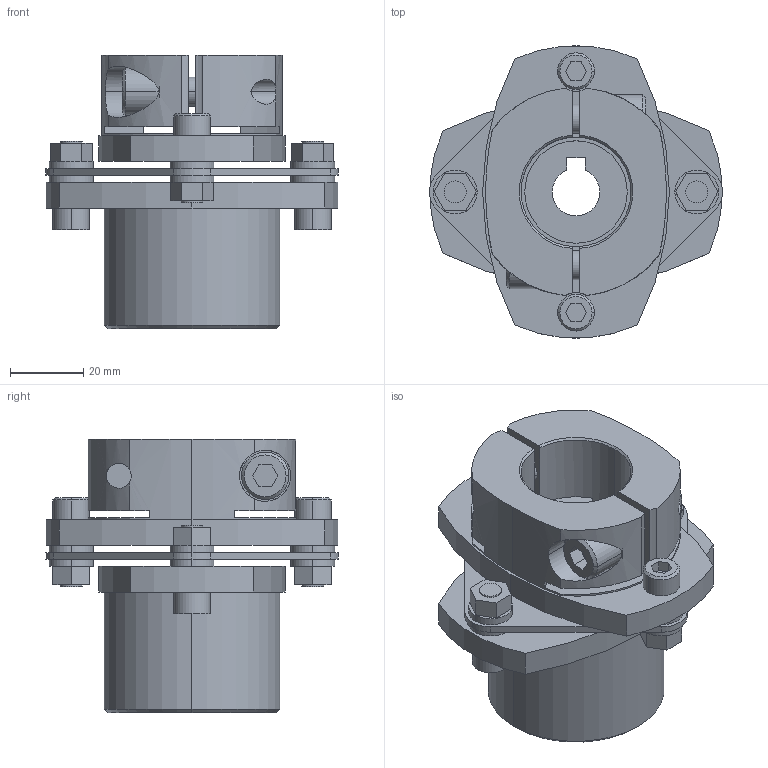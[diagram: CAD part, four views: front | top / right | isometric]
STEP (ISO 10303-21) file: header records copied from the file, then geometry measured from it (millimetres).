
FILE_DESCRIPTION((''),'2;1');
FILE_NAME('LCS-80M-16L亊30B.stp','2015-10-27T19:16:20',(''),(''),'AutoCAD STEP 2000i','AutoCAD 2000i',', , ');
FILE_SCHEMA(('CONFIG_CONTROL_DESIGN'));
Length unit declared in the file: millimetre
Products named in the file (8): LCS-80M-16L×28B; 忣兜1; LC80-B028; LC80-B020; LC80M-L016; LC80-B015-1; LC80-B015; LCS80-ITA
Assembly tree (7 placements, depth 2):
  LCS-80M-16L×28B
    忣兜1
    LC80-B028
    LC80-B020
    LC80M-L016
    LC80-B015-1
    LC80-B015
    LCS80-ITA
Bounding box: 80 x 79.95 x 74.75 mm (x, y, z)
Volume: 133275.7 mm3; surface area: 40928 mm2
Topology: 1 solids, 1 shells, 230 faces, 580 edges, 382 vertices
Faces by surface type: plane 115, cylinder 96, cone 19
Entity records: 7429 total; most frequent: CARTESIAN_POINT 1504, DIRECTION 1256, ORIENTED_EDGE 1160, EDGE_CURVE 580, AXIS2_PLACEMENT_3D 460, VERTEX_POINT 382, VECTOR 336, LINE 336
